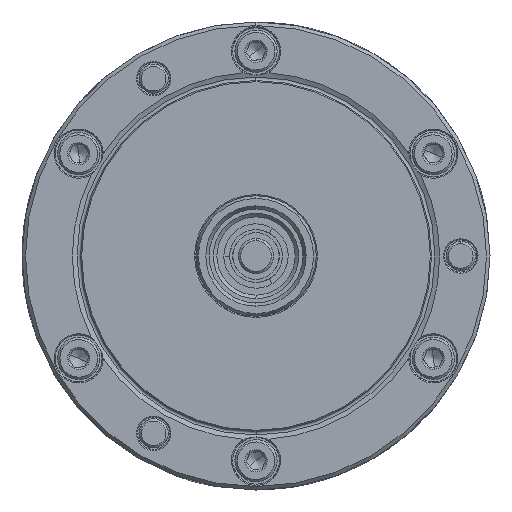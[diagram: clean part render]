
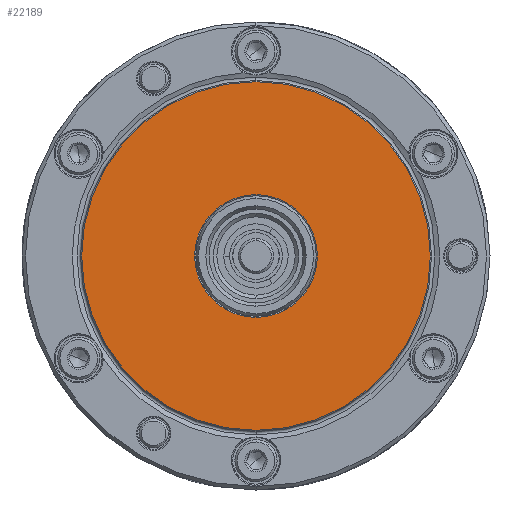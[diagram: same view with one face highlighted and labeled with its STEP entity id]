
A CAD part, left-side view. The second image highlights one B-rep face of the part: STEP entity #22189.
In plain terms, the highlighted planar face has unit normal (-1, 0, 0).
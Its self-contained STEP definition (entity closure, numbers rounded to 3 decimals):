
#519 = CARTESIAN_POINT ( 'NONE',  ( -57., -10.5, 0. ) ) ;
#2731 = EDGE_LOOP ( 'NONE', ( #3361, #42834 ) ) ;
#3167 = VERTEX_POINT ( 'NONE', #45272 ) ;
#3269 = DIRECTION ( 'NONE',  ( 1., 0., 0. ) ) ;
#3361 = ORIENTED_EDGE ( 'NONE', *, *, #43049, .T. ) ;
#4321 = FACE_OUTER_BOUND ( 'NONE', #42144, .T. ) ;
#4335 = CARTESIAN_POINT ( 'NONE',  ( -57., 0., 0. ) ) ;
#4827 = DIRECTION ( 'NONE',  ( 1., 0., 0. ) ) ;
#6576 = CARTESIAN_POINT ( 'NONE',  ( -57., 0., 0. ) ) ;
#10915 = CIRCLE ( 'NONE', #35305, 29.8 ) ;
#11232 = CIRCLE ( 'NONE', #46139, 29.8 ) ;
#12210 = DIRECTION ( 'NONE',  ( 0., 0., -1. ) ) ;
#12285 = DIRECTION ( 'NONE',  ( 0., 0., -1. ) ) ;
#13576 = AXIS2_PLACEMENT_3D ( 'NONE', #519, #16510, #31517 ) ;
#15712 = CARTESIAN_POINT ( 'NONE',  ( -57., 0., -29.8 ) ) ;
#15758 = FACE_BOUND ( 'NONE', #2731, .T. ) ;
#16510 = DIRECTION ( 'NONE',  ( 1., 0., 0. ) ) ;
#18010 = CIRCLE ( 'NONE', #26918, 10.5 ) ;
#21083 = EDGE_CURVE ( 'NONE', #27548, #3167, #10915, .T. ) ;
#22189 = ADVANCED_FACE ( 'NONE', ( #4321, #15758 ), #35334, .F. ) ;
#22358 = DIRECTION ( 'NONE',  ( 0., 0., -1. ) ) ;
#22979 = CARTESIAN_POINT ( 'NONE',  ( -57., 0., 10.5 ) ) ;
#24754 = ORIENTED_EDGE ( 'NONE', *, *, #21083, .F. ) ;
#25920 = VERTEX_POINT ( 'NONE', #26193 ) ;
#26193 = CARTESIAN_POINT ( 'NONE',  ( -57., 0., -10.5 ) ) ;
#26918 = AXIS2_PLACEMENT_3D ( 'NONE', #4335, #4827, #12210 ) ;
#27548 = VERTEX_POINT ( 'NONE', #15712 ) ;
#27619 = CIRCLE ( 'NONE', #38980, 10.5 ) ;
#29243 = DIRECTION ( 'NONE',  ( 0., 0., -1. ) ) ;
#31517 = DIRECTION ( 'NONE',  ( 0., 0., -1. ) ) ;
#33966 = EDGE_CURVE ( 'NONE', #48338, #25920, #27619, .T. ) ;
#34573 = ORIENTED_EDGE ( 'NONE', *, *, #40409, .F. ) ;
#35305 = AXIS2_PLACEMENT_3D ( 'NONE', #35917, #38515, #12285 ) ;
#35334 = PLANE ( 'NONE',  #13576 ) ;
#35917 = CARTESIAN_POINT ( 'NONE',  ( -57., 0., 0. ) ) ;
#38079 = CARTESIAN_POINT ( 'NONE',  ( -57., 0., 0. ) ) ;
#38515 = DIRECTION ( 'NONE',  ( 1., 0., 0. ) ) ;
#38980 = AXIS2_PLACEMENT_3D ( 'NONE', #38079, #45212, #29243 ) ;
#40409 = EDGE_CURVE ( 'NONE', #3167, #27548, #11232, .T. ) ;
#42144 = EDGE_LOOP ( 'NONE', ( #24754, #34573 ) ) ;
#42834 = ORIENTED_EDGE ( 'NONE', *, *, #33966, .T. ) ;
#43049 = EDGE_CURVE ( 'NONE', #25920, #48338, #18010, .T. ) ;
#45212 = DIRECTION ( 'NONE',  ( 1., 0., 0. ) ) ;
#45272 = CARTESIAN_POINT ( 'NONE',  ( -57., 0., 29.8 ) ) ;
#46139 = AXIS2_PLACEMENT_3D ( 'NONE', #6576, #3269, #22358 ) ;
#48338 = VERTEX_POINT ( 'NONE', #22979 ) ;
